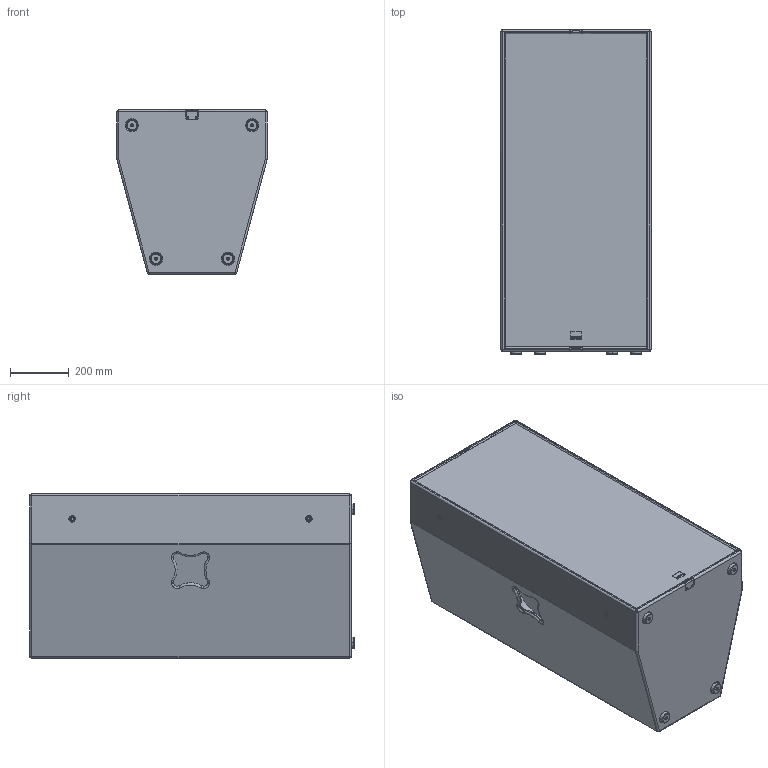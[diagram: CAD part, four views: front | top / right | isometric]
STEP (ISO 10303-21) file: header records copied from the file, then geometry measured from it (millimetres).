
FILE_DESCRIPTION (( 'STEP AP203' ), '1' );
FILE_NAME ('Seeburg_K25.STEP', '2012-10-16T12:05:55', ( 'Fabian' ), ( '' ), 'SwSTEP 2.0', 'SolidWorks 2009', '' );
FILE_SCHEMA (( 'CONFIG_CONTROL_DESIGN' ));
Length unit declared in the file: millimetre
Products named in the file (2): Seeburg_K25; K25
Assembly tree (1 placements, depth 2):
  Seeburg_K25
    K25
Bounding box: 512 x 1108 x 560 mm (x, y, z)
Volume: 38068912.3 mm3; surface area: 5399826 mm2
Topology: 24 solids, 24 shells, 778 faces, 1950 edges, 1242 vertices
Faces by surface type: cylinder 350, plane 239, cone 88, torus 84, sphere 17
Entity records: 25529 total; most frequent: CARTESIAN_POINT 6122, DIRECTION 4267, ORIENTED_EDGE 3884, EDGE_CURVE 1942, AXIS2_PLACEMENT_3D 1675, VERTEX_POINT 1238, VECTOR 917, LINE 917
